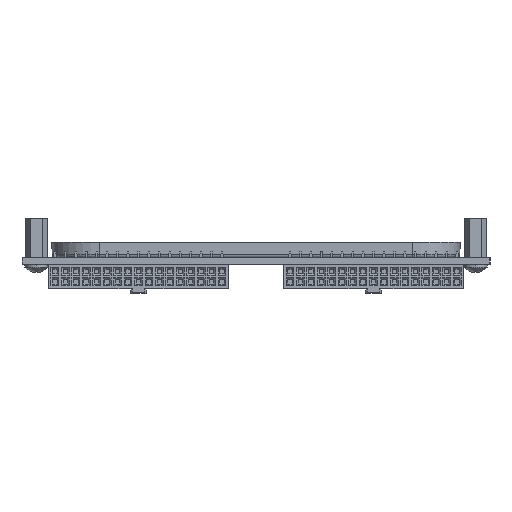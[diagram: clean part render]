
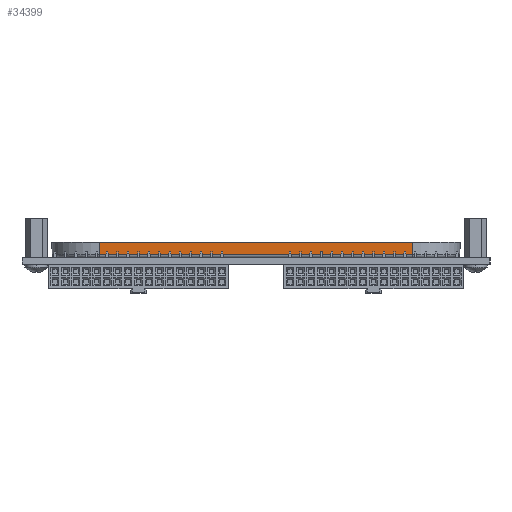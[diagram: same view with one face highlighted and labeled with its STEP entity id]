
A CAD part, left-side view. The second image highlights one B-rep face of the part: STEP entity #34399.
In plain terms, the highlighted planar face has unit normal (-0.999, 0, -0.035) as drawn and (0, 0.035, -0.999) by its records, which use the part's own axes.
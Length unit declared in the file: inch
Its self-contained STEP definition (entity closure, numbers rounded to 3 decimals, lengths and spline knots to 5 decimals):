
#29348=DIRECTION('',(-1.,0.,0.));
#29349=VECTOR('',#29348,3.);
#29350=CARTESIAN_POINT('',(-0.45,-0.15,-0.00524));
#29351=LINE('',#29350,#29349);
#30012=DIRECTION('',(-1.,0.,0.));
#30013=VECTOR('',#30012,3.);
#30014=CARTESIAN_POINT('',(-0.45,-0.02895,
-0.00101));
#30015=LINE('',#30014,#30013);
#30016=DIRECTION('',(0.,-0.999,
-0.035));
#30017=VECTOR('',#30016,0.12112);
#30018=CARTESIAN_POINT('',(-3.45,-0.02895,-0.00101));
#30019=LINE('',#30018,#30017);
#30020=DIRECTION('',(0.,-0.999,-0.035));
#30021=VECTOR('',#30020,0.12112);
#30022=CARTESIAN_POINT('',(-0.45,-0.02895,
-0.00101));
#30023=LINE('',#30022,#30021);
#31451=CARTESIAN_POINT('',(-3.45,-0.15,-0.00524));
#31453=VERTEX_POINT('',#31451);
#31454=CARTESIAN_POINT('',(-0.45,-0.15,-0.00524));
#31456=VERTEX_POINT('',#31454);
#31572=CARTESIAN_POINT('',(-0.45,-0.02895,-0.00101));
#31573=VERTEX_POINT('',#31572);
#31576=CARTESIAN_POINT('',(-3.45,-0.02895,-0.00101));
#31577=VERTEX_POINT('',#31576);
#34387=CARTESIAN_POINT('',(1.04902,0.,0.));
#34388=DIRECTION('',(0.,0.035,-0.999));
#34389=DIRECTION('',(1.,0.,0.));
#34390=AXIS2_PLACEMENT_3D('',#34387,#34388,#34389);
#34391=PLANE('',#34390);
#34392=ORIENTED_EDGE('',*,*,#32928,.T.);
#34394=ORIENTED_EDGE('',*,*,#34393,.T.);
#34395=ORIENTED_EDGE('',*,*,#33125,.F.);
#34396=ORIENTED_EDGE('',*,*,#34380,.F.);
#34397=EDGE_LOOP('',(#34392,#34394,#34395,#34396));
#34398=FACE_OUTER_BOUND('',#34397,.F.);
#34399=ADVANCED_FACE('',(#34398),#34391,.T.);
#32928=EDGE_CURVE('',#31573,#31577,#30015,.T.);
#33125=EDGE_CURVE('',#31456,#31453,#29351,.T.);
#34380=EDGE_CURVE('',#31573,#31456,#30023,.T.);
#34393=EDGE_CURVE('',#31577,#31453,#30019,.T.);
